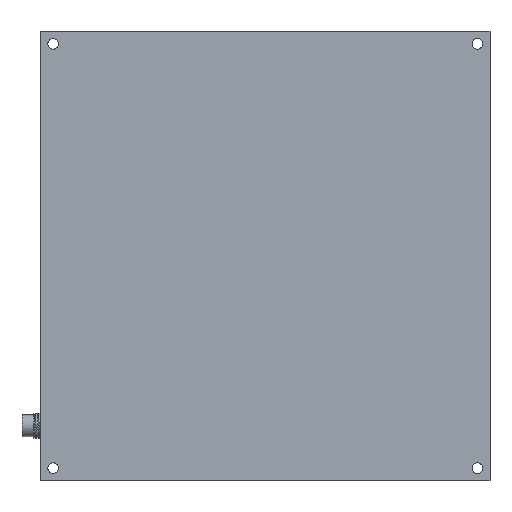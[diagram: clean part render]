
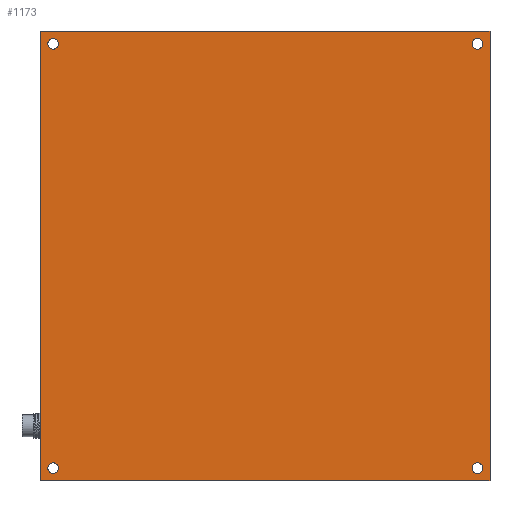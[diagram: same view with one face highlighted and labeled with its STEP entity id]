
A CAD part, front view. The second image highlights one B-rep face of the part: STEP entity #1173.
In plain terms, the highlighted planar face has unit normal (0, -1, 0).
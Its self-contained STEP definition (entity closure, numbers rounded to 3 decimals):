
#45=FACE_BOUND('',#234,.T.);
#46=FACE_BOUND('',#235,.T.);
#47=FACE_BOUND('',#236,.T.);
#48=FACE_BOUND('',#237,.T.);
#86=PLANE('',#1350);
#150=FACE_OUTER_BOUND('',#233,.T.);
#233=EDGE_LOOP('',(#1069,#1070,#1071,#1072));
#234=EDGE_LOOP('',(#1073,#1074));
#235=EDGE_LOOP('',(#1075,#1076));
#236=EDGE_LOOP('',(#1077,#1078));
#237=EDGE_LOOP('',(#1079,#1080));
#317=CIRCLE('',#1319,1.7);
#318=CIRCLE('',#1320,1.7);
#323=CIRCLE('',#1327,1.7);
#324=CIRCLE('',#1328,1.7);
#329=CIRCLE('',#1335,1.7);
#330=CIRCLE('',#1336,1.7);
#335=CIRCLE('',#1343,1.7);
#336=CIRCLE('',#1344,1.7);
#397=LINE('',#3020,#457);
#400=LINE('',#3027,#460);
#402=LINE('',#3030,#462);
#403=LINE('',#3032,#463);
#457=VECTOR('',#1634,10.);
#460=VECTOR('',#1641,10.);
#462=VECTOR('',#1645,10.);
#463=VECTOR('',#1648,10.);
#568=VERTEX_POINT('',#3017);
#569=VERTEX_POINT('',#3019);
#570=VERTEX_POINT('',#3024);
#571=VERTEX_POINT('',#3026);
#572=VERTEX_POINT('',#3034);
#573=VERTEX_POINT('',#3035);
#578=VERTEX_POINT('',#3050);
#579=VERTEX_POINT('',#3051);
#584=VERTEX_POINT('',#3066);
#585=VERTEX_POINT('',#3067);
#590=VERTEX_POINT('',#3082);
#591=VERTEX_POINT('',#3083);
#724=EDGE_CURVE('',#569,#568,#397,.T.);
#727=EDGE_CURVE('',#571,#570,#400,.T.);
#729=EDGE_CURVE('',#568,#571,#402,.T.);
#730=EDGE_CURVE('',#570,#569,#403,.T.);
#731=EDGE_CURVE('',#572,#573,#317,.T.);
#732=EDGE_CURVE('',#573,#572,#318,.T.);
#739=EDGE_CURVE('',#578,#579,#323,.T.);
#740=EDGE_CURVE('',#579,#578,#324,.T.);
#747=EDGE_CURVE('',#584,#585,#329,.T.);
#748=EDGE_CURVE('',#585,#584,#330,.T.);
#755=EDGE_CURVE('',#590,#591,#335,.T.);
#756=EDGE_CURVE('',#591,#590,#336,.T.);
#1069=ORIENTED_EDGE('',*,*,#727,.T.);
#1070=ORIENTED_EDGE('',*,*,#730,.T.);
#1071=ORIENTED_EDGE('',*,*,#724,.T.);
#1072=ORIENTED_EDGE('',*,*,#729,.T.);
#1073=ORIENTED_EDGE('',*,*,#731,.T.);
#1074=ORIENTED_EDGE('',*,*,#732,.T.);
#1075=ORIENTED_EDGE('',*,*,#739,.T.);
#1076=ORIENTED_EDGE('',*,*,#740,.T.);
#1077=ORIENTED_EDGE('',*,*,#747,.T.);
#1078=ORIENTED_EDGE('',*,*,#748,.T.);
#1079=ORIENTED_EDGE('',*,*,#755,.T.);
#1080=ORIENTED_EDGE('',*,*,#756,.T.);
#1173=ADVANCED_FACE('',(#150,#45,#46,#47,#48),#86,.F.);
#1319=AXIS2_PLACEMENT_3D('',#3036,#1651,#1652);
#1320=AXIS2_PLACEMENT_3D('',#3037,#1653,#1654);
#1327=AXIS2_PLACEMENT_3D('',#3052,#1669,#1670);
#1328=AXIS2_PLACEMENT_3D('',#3053,#1671,#1672);
#1335=AXIS2_PLACEMENT_3D('',#3068,#1687,#1688);
#1336=AXIS2_PLACEMENT_3D('',#3069,#1689,#1690);
#1343=AXIS2_PLACEMENT_3D('',#3084,#1705,#1706);
#1344=AXIS2_PLACEMENT_3D('',#3085,#1707,#1708);
#1350=AXIS2_PLACEMENT_3D('',#3097,#1721,#1722);
#1634=DIRECTION('',(0.,0.,-1.));
#1641=DIRECTION('',(0.,0.,1.));
#1645=DIRECTION('',(1.,0.,0.));
#1648=DIRECTION('',(-1.,0.,0.));
#1651=DIRECTION('center_axis',(0.,1.,0.));
#1652=DIRECTION('ref_axis',(0.,0.,1.));
#1653=DIRECTION('center_axis',(0.,1.,0.));
#1654=DIRECTION('ref_axis',(0.,0.,1.));
#1669=DIRECTION('center_axis',(0.,1.,0.));
#1670=DIRECTION('ref_axis',(0.,0.,1.));
#1671=DIRECTION('center_axis',(0.,1.,0.));
#1672=DIRECTION('ref_axis',(0.,0.,1.));
#1687=DIRECTION('center_axis',(0.,1.,0.));
#1688=DIRECTION('ref_axis',(0.,0.,1.));
#1689=DIRECTION('center_axis',(0.,1.,0.));
#1690=DIRECTION('ref_axis',(0.,0.,1.));
#1705=DIRECTION('center_axis',(0.,1.,0.));
#1706=DIRECTION('ref_axis',(0.,0.,1.));
#1707=DIRECTION('center_axis',(0.,1.,0.));
#1708=DIRECTION('ref_axis',(0.,0.,1.));
#1721=DIRECTION('center_axis',(0.,1.,0.));
#1722=DIRECTION('ref_axis',(0.,0.,1.));
#3017=CARTESIAN_POINT('',(-71.5,-5.5,-71.5));
#3019=CARTESIAN_POINT('',(-71.5,-5.5,71.5));
#3020=CARTESIAN_POINT('',(-71.5,-5.5,-70.5));
#3024=CARTESIAN_POINT('',(71.5,-5.5,71.5));
#3026=CARTESIAN_POINT('',(71.5,-5.5,-71.5));
#3027=CARTESIAN_POINT('',(71.5,-5.5,-70.5));
#3030=CARTESIAN_POINT('',(-70.5,-5.5,-71.5));
#3032=CARTESIAN_POINT('',(-70.5,-5.5,71.5));
#3034=CARTESIAN_POINT('',(-67.5,-5.5,-65.8));
#3035=CARTESIAN_POINT('',(-67.5,-5.5,-69.2));
#3036=CARTESIAN_POINT('Origin',(-67.5,-5.5,-67.5));
#3037=CARTESIAN_POINT('Origin',(-67.5,-5.5,-67.5));
#3050=CARTESIAN_POINT('',(-67.5,-5.5,69.2));
#3051=CARTESIAN_POINT('',(-67.5,-5.5,65.8));
#3052=CARTESIAN_POINT('Origin',(-67.5,-5.5,67.5));
#3053=CARTESIAN_POINT('Origin',(-67.5,-5.5,67.5));
#3066=CARTESIAN_POINT('',(67.5,-5.5,69.2));
#3067=CARTESIAN_POINT('',(67.5,-5.5,65.8));
#3068=CARTESIAN_POINT('Origin',(67.5,-5.5,67.5));
#3069=CARTESIAN_POINT('Origin',(67.5,-5.5,67.5));
#3082=CARTESIAN_POINT('',(67.5,-5.5,-65.8));
#3083=CARTESIAN_POINT('',(67.5,-5.5,-69.2));
#3084=CARTESIAN_POINT('Origin',(67.5,-5.5,-67.5));
#3085=CARTESIAN_POINT('Origin',(67.5,-5.5,-67.5));
#3097=CARTESIAN_POINT('Origin',(-70.5,-5.5,-70.5));
